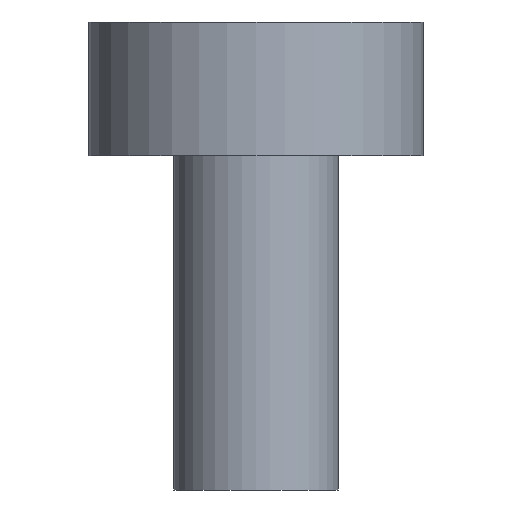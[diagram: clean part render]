
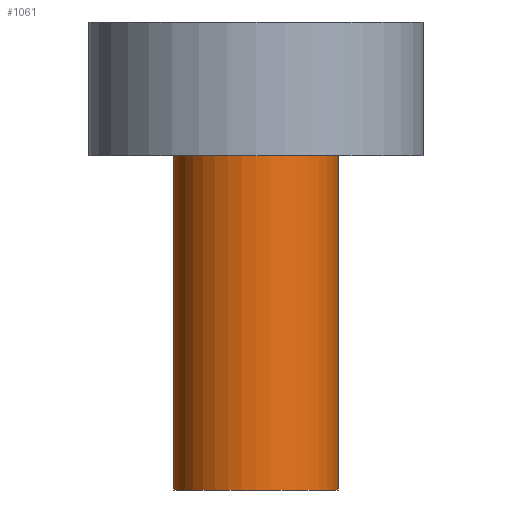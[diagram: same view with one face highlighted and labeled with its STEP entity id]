
A CAD part, front view. The second image highlights one B-rep face of the part: STEP entity #1061.
In plain terms, the highlighted cylindrical face has radius 1.48 mm (diameter 2.96 mm), a full revolution.
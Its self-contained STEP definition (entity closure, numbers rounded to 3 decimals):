
#111 = PLANE('',#112);
#112 = AXIS2_PLACEMENT_3D('',#113,#114,#115);
#113 = CARTESIAN_POINT('',(-34.,-28.5,9.));
#114 = DIRECTION('',(0.,0.,1.));
#115 = DIRECTION('',(1.,0.,-0.));
#448 = EDGE_CURVE('',#449,#449,#451,.T.);
#449 = VERTEX_POINT('',#450);
#450 = CARTESIAN_POINT('',(-32.52,-28.5,9.));
#451 = SURFACE_CURVE('',#452,(#457,#464),.PCURVE_S1.);
#452 = CIRCLE('',#453,1.48);
#453 = AXIS2_PLACEMENT_3D('',#454,#455,#456);
#454 = CARTESIAN_POINT('',(-34.,-28.5,9.));
#455 = DIRECTION('',(0.,0.,1.));
#456 = DIRECTION('',(1.,0.,-0.));
#457 = PCURVE('',#111,#458);
#458 = DEFINITIONAL_REPRESENTATION('',(#459),#463);
#459 = CIRCLE('',#460,1.48);
#460 = AXIS2_PLACEMENT_2D('',#461,#462);
#461 = CARTESIAN_POINT('',(0.,0.));
#462 = DIRECTION('',(1.,0.));
#463 = ( GEOMETRIC_REPRESENTATION_CONTEXT(2) 
PARAMETRIC_REPRESENTATION_CONTEXT() REPRESENTATION_CONTEXT('2D SPACE',''
  ) );
#464 = PCURVE('',#465,#470);
#465 = CYLINDRICAL_SURFACE('',#466,1.48);
#466 = AXIS2_PLACEMENT_3D('',#467,#468,#469);
#467 = CARTESIAN_POINT('',(-34.,-28.5,3.));
#468 = DIRECTION('',(0.,0.,1.));
#469 = DIRECTION('',(1.,0.,-0.));
#470 = DEFINITIONAL_REPRESENTATION('',(#471),#475);
#471 = LINE('',#472,#473);
#472 = CARTESIAN_POINT('',(0.,6.));
#473 = VECTOR('',#474,1.);
#474 = DIRECTION('',(1.,0.));
#475 = ( GEOMETRIC_REPRESENTATION_CONTEXT(2) 
PARAMETRIC_REPRESENTATION_CONTEXT() REPRESENTATION_CONTEXT('2D SPACE',''
  ) );
#1061 = ADVANCED_FACE('',(#1062),#465,.T.);
#1062 = FACE_BOUND('',#1063,.T.);
#1063 = EDGE_LOOP('',(#1064,#1065,#1088,#1115));
#1064 = ORIENTED_EDGE('',*,*,#448,.F.);
#1065 = ORIENTED_EDGE('',*,*,#1066,.F.);
#1066 = EDGE_CURVE('',#1067,#449,#1069,.T.);
#1067 = VERTEX_POINT('',#1068);
#1068 = CARTESIAN_POINT('',(-32.52,-28.5,3.));
#1069 = SEAM_CURVE('',#1070,(#1074,#1081),.PCURVE_S1.);
#1070 = LINE('',#1071,#1072);
#1071 = CARTESIAN_POINT('',(-32.52,-28.5,3.));
#1072 = VECTOR('',#1073,1.);
#1073 = DIRECTION('',(0.,0.,1.));
#1074 = PCURVE('',#465,#1075);
#1075 = DEFINITIONAL_REPRESENTATION('',(#1076),#1080);
#1076 = LINE('',#1077,#1078);
#1077 = CARTESIAN_POINT('',(6.283,-0.));
#1078 = VECTOR('',#1079,1.);
#1079 = DIRECTION('',(0.,1.));
#1080 = ( GEOMETRIC_REPRESENTATION_CONTEXT(2) 
PARAMETRIC_REPRESENTATION_CONTEXT() REPRESENTATION_CONTEXT('2D SPACE',''
  ) );
#1081 = PCURVE('',#465,#1082);
#1082 = DEFINITIONAL_REPRESENTATION('',(#1083),#1087);
#1083 = LINE('',#1084,#1085);
#1084 = CARTESIAN_POINT('',(0.,-0.));
#1085 = VECTOR('',#1086,1.);
#1086 = DIRECTION('',(0.,1.));
#1087 = ( GEOMETRIC_REPRESENTATION_CONTEXT(2) 
PARAMETRIC_REPRESENTATION_CONTEXT() REPRESENTATION_CONTEXT('2D SPACE',''
  ) );
#1088 = ORIENTED_EDGE('',*,*,#1089,.T.);
#1089 = EDGE_CURVE('',#1067,#1067,#1090,.T.);
#1090 = SURFACE_CURVE('',#1091,(#1096,#1103),.PCURVE_S1.);
#1091 = CIRCLE('',#1092,1.48);
#1092 = AXIS2_PLACEMENT_3D('',#1093,#1094,#1095);
#1093 = CARTESIAN_POINT('',(-34.,-28.5,3.));
#1094 = DIRECTION('',(0.,0.,1.));
#1095 = DIRECTION('',(1.,0.,-0.));
#1096 = PCURVE('',#465,#1097);
#1097 = DEFINITIONAL_REPRESENTATION('',(#1098),#1102);
#1098 = LINE('',#1099,#1100);
#1099 = CARTESIAN_POINT('',(0.,0.));
#1100 = VECTOR('',#1101,1.);
#1101 = DIRECTION('',(1.,0.));
#1102 = ( GEOMETRIC_REPRESENTATION_CONTEXT(2) 
PARAMETRIC_REPRESENTATION_CONTEXT() REPRESENTATION_CONTEXT('2D SPACE',''
  ) );
#1103 = PCURVE('',#1104,#1109);
#1104 = PLANE('',#1105);
#1105 = AXIS2_PLACEMENT_3D('',#1106,#1107,#1108);
#1106 = CARTESIAN_POINT('',(-34.,-28.5,3.));
#1107 = DIRECTION('',(0.,0.,1.));
#1108 = DIRECTION('',(1.,0.,-0.));
#1109 = DEFINITIONAL_REPRESENTATION('',(#1110),#1114);
#1110 = CIRCLE('',#1111,1.48);
#1111 = AXIS2_PLACEMENT_2D('',#1112,#1113);
#1112 = CARTESIAN_POINT('',(0.,0.));
#1113 = DIRECTION('',(1.,0.));
#1114 = ( GEOMETRIC_REPRESENTATION_CONTEXT(2) 
PARAMETRIC_REPRESENTATION_CONTEXT() REPRESENTATION_CONTEXT('2D SPACE',''
  ) );
#1115 = ORIENTED_EDGE('',*,*,#1066,.T.);
